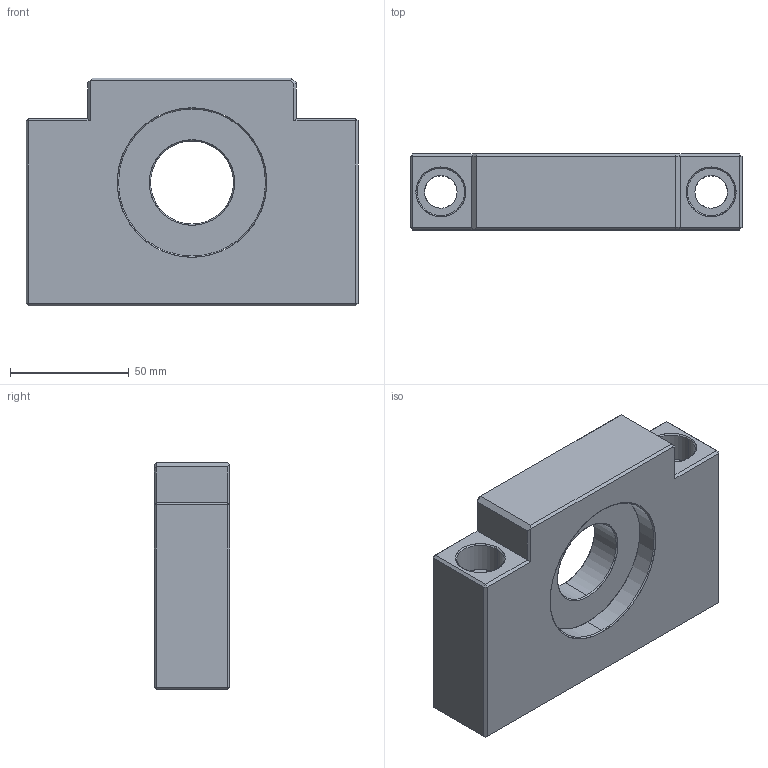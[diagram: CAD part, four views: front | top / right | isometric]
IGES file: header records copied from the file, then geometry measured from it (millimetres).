
Start section: SolidWorks IGES file using analytic representation for surfaces
Global section: file name: E:\同创达图纸\产品示意图\3D选型图\支撑座\BF系列\BF35.IGS; native system: SolidWorks 2012; preprocessor: SolidWorks 2012; author: gao; date: 130702.152536; units: millimetre
Bounding box: 140 x 32 x 96 mm (x, y, z)
Surface area: 49114.5 mm2 (no closed solid volume)
Topology: 0 solids, 0 shells, 77 faces, 936 edges, 936 vertices
Faces by surface type: bspline 47, revolution 30
